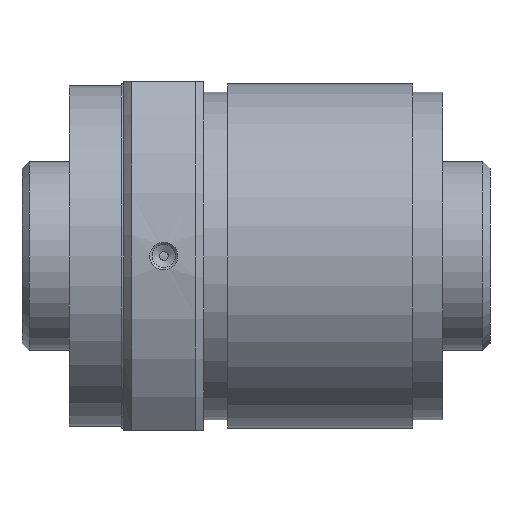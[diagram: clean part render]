
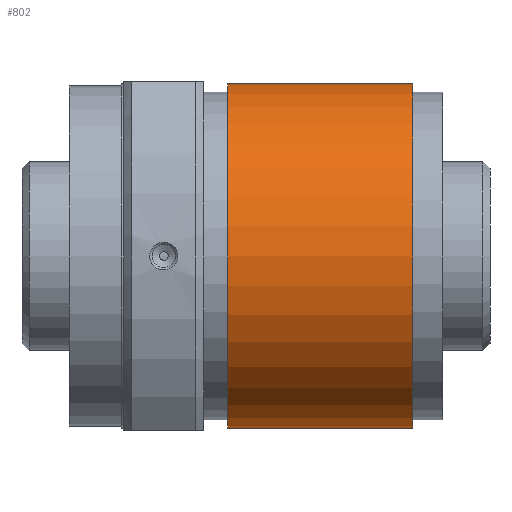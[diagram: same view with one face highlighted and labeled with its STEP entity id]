
A CAD part, front view. The second image highlights one B-rep face of the part: STEP entity #802.
In plain terms, the highlighted cylindrical face has radius 36.5 mm (diameter 73 mm), a full revolution.
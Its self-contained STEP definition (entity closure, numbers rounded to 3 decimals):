
#70=CYLINDRICAL_SURFACE('',#915,36.5);
#148=ORIENTED_EDGE('',*,*,#305,.T.);
#149=ORIENTED_EDGE('',*,*,#304,.F.);
#304=EDGE_CURVE('',#386,#386,#458,.T.);
#305=EDGE_CURVE('',#387,#387,#459,.T.);
#386=VERTEX_POINT('',#1395);
#387=VERTEX_POINT('',#1398);
#458=CIRCLE('',#914,36.5);
#459=CIRCLE('',#916,36.5);
#534=EDGE_LOOP('',(#148));
#535=EDGE_LOOP('',(#149));
#664=FACE_BOUND('',#534,.T.);
#665=FACE_BOUND('',#535,.T.);
#802=ADVANCED_FACE('',(#664,#665),#70,.T.);
#914=AXIS2_PLACEMENT_3D('',#1394,#1089,#1090);
#915=AXIS2_PLACEMENT_3D('',#1396,#1091,#1092);
#916=AXIS2_PLACEMENT_3D('',#1397,#1093,#1094);
#1089=DIRECTION('',(1.,0.,0.));
#1090=DIRECTION('',(0.,0.,-1.));
#1091=DIRECTION('',(1.,0.,0.));
#1092=DIRECTION('',(0.,0.,-1.));
#1093=DIRECTION('',(1.,0.,0.));
#1094=DIRECTION('',(0.,0.,-1.));
#1394=CARTESIAN_POINT('',(72.688,0.,0.));
#1395=CARTESIAN_POINT('',(72.688,0.,-36.5));
#1396=CARTESIAN_POINT('',(79.,0.,0.));
#1397=CARTESIAN_POINT('',(33.55,0.,0.));
#1398=CARTESIAN_POINT('',(33.55,0.,-36.5));
